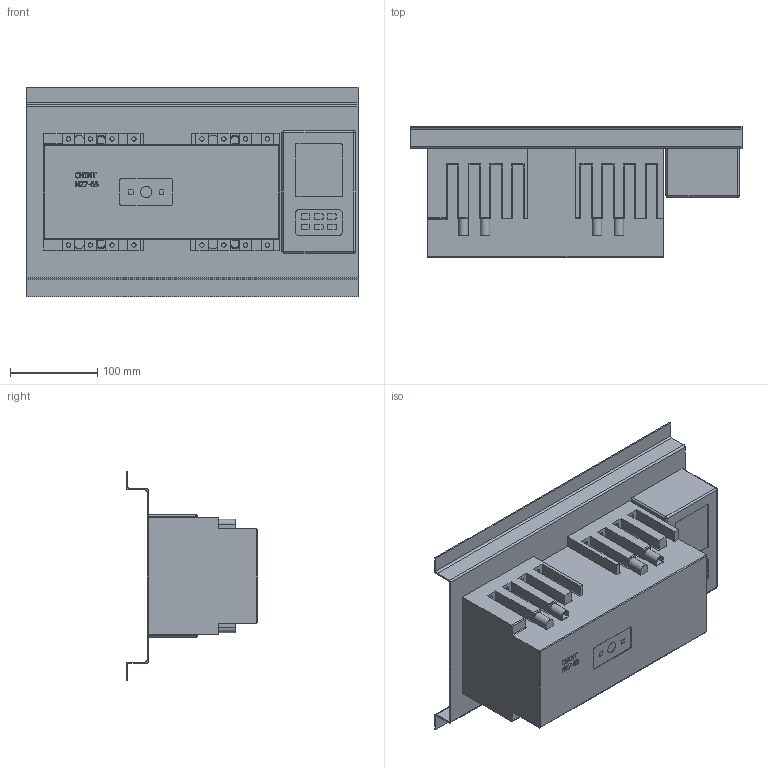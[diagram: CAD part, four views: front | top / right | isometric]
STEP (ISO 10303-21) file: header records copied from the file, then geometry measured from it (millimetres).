
FILE_DESCRIPTION(/* description */ ('','CAx-IF Rec.Pracs.---Representation and Presentation of Product Manufacturing Information (PMI)---3.8---2014-02-18'),/* implementation_level */ '2;1');
FILE_NAME(/* name */ 'C:\Users\ILYA\Desktop\NZ7\NZ7-63(4P)\NZ7-63(4P).stp',/* time_stamp */ '2017-08-15T20:29:46+03:00',/* author */ ('ILYA'),/* organization */ (''),/* preprocessor_version */ 'ST-DEVELOPER v16.1',/* originating_system */ 'Autodesk Inventor 2016',/* authorisation */ '');
FILE_SCHEMA (('AP242_MANAGED_MODEL_BASED_3D_ENGINEERING_MIM_LF { 1 0 10303 442 1 1 4 }'));
Length unit declared in the file: millimetre
Products named in the file (1): NZ7-63(4P)
Bounding box: 380 x 150 x 240 mm (x, y, z)
Volume: 4748756 mm3; surface area: 377722.5 mm2
Topology: 1 solids, 1 shells, 498 faces, 1333 edges, 883 vertices
Faces by surface type: plane 311, cylinder 129, bspline 54, sphere 4
Full cylindrical faces by diameter (mm): 5 x16, 13 x1
Entity records: 15946 total; most frequent: CARTESIAN_POINT 3561, ORIENTED_EDGE 2632, DIRECTION 2351, EDGE_CURVE 1316, LINE 955, VECTOR 955, VERTEX_POINT 883, AXIS2_PLACEMENT_3D 698
